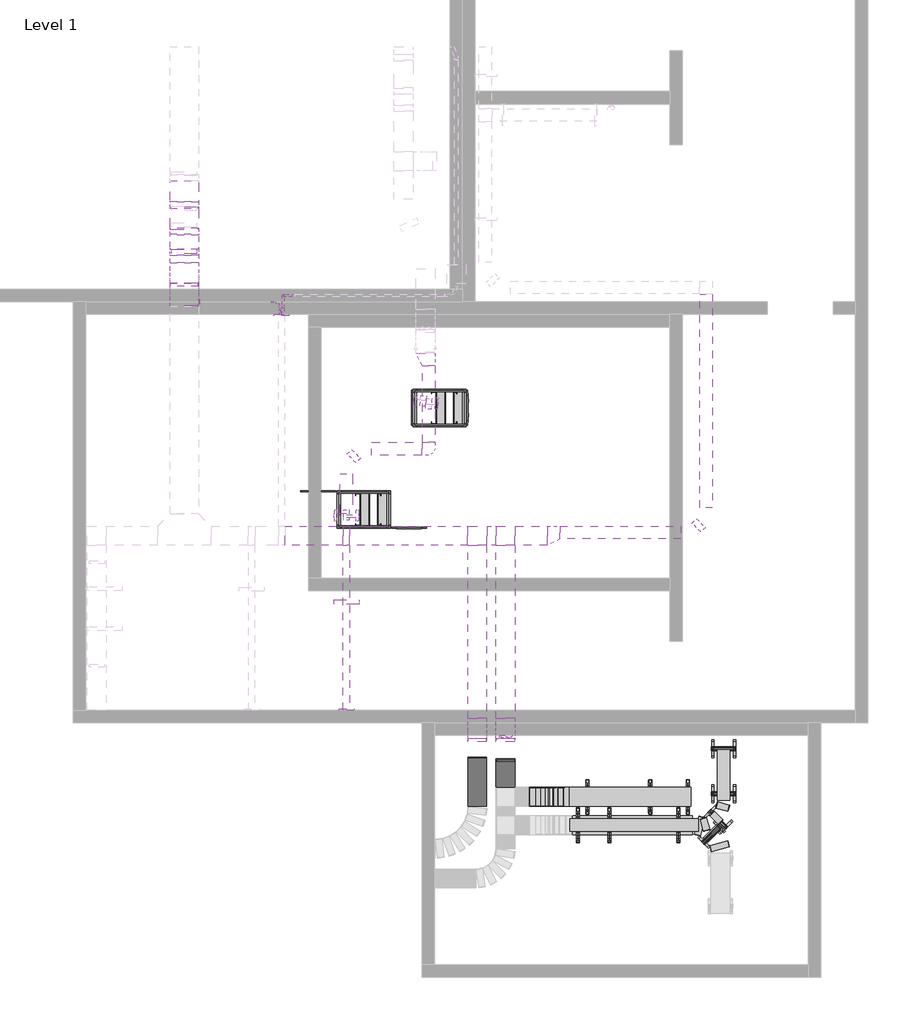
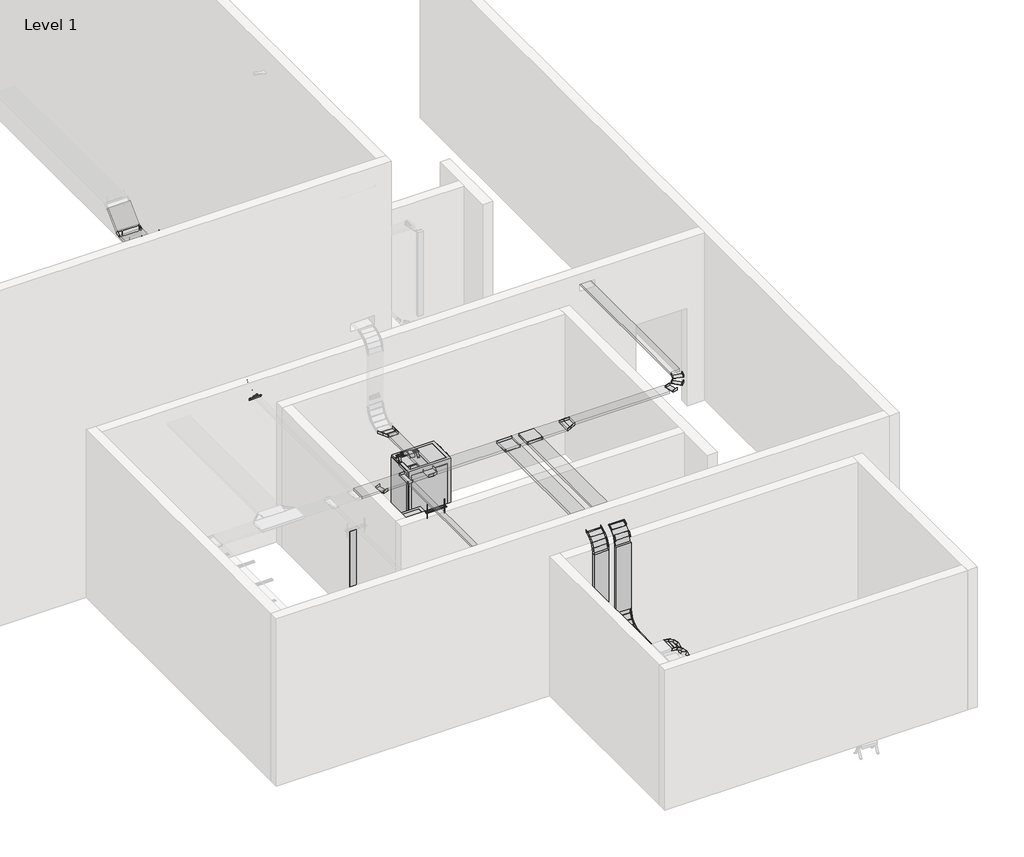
# One storey, part 2 of 3: 28 cable carrier segments, 26 cable carrier fittings, 24 electric appliances.
"""IFC4 building model written with IfcOpenShell, lengths in millimetres."""

from ifc_helpers import new_model, si_unit, point, frame, frame_2d, origin, place, context, project, spatial, polyline, circle_curve, trimmed, segment, composite_curve, outline, extrude, transform, mapped, element, save
from components import cable_carrier_fitting_1d7cee85, cable_carrier_fitting_3a409af5, cable_carrier_fitting_910f61e4, cable_carrier_fitting_ac902b17, cable_carrier_fitting_1cd74130, cable_carrier_fitting_e2580871, conduit_elbow_plain_end_pvc_standard_c46de57f, conduit_elbow_plain_end_pvc_standard_b2e2501a, inside_b042d5d7, inside_feb4f6bf, inside_2fadb0b0, inside_cf2065a4, outside_59f74532, outside_56ba3ab0, outside_c7e362af, outside_15df26a3, standard_9af1a614, standard_2a561b38, standard_be66f974, electric_appliance_e5aa1008, electric_appliance_624bd925, electric_appliance_356cf39a, standard_51789b41, standard_d35a98ab, standard_79ea3f24, standard_15ca4c5d, standard_970344b8, standard_966c1fd9, standard_a21dcf37, standard_b50ad245

model = new_model("IFC4")

# Units and contexts
model_context = context("Model", 3, world=origin())
ifc_project = project(units=[si_unit("LENGTHUNIT", "METRE", prefix="MILLI")], contexts=[model_context])

# Site, building, storey
site = spatial("IfcSite", under=ifc_project)
building = spatial("IfcBuilding", under=site)
storey = spatial("IfcBuildingStorey", under=building, Name="Level 1", Elevation=0.0)

# Cable carrier fittings
placement = place(None, origin())
cable_carrier_fitting_shape = cable_carrier_fitting_1d7cee85(model_context)
element("IfcCableCarrierFitting", 1, ObjectType="Tee-Cablofil-Wire_Mesh_Cable_Tray : EZ T 90 KIT", at=placement, inside=storey, context=model_context, shape_type="MappedRepresentation", body=[
    mapped(cable_carrier_fitting_shape, transform((2783.9308637, -2938.9704012, 3352.8), x_axis=(1.0, 0.0, 0.0), y_axis=(0.0, 1.0, 0.0), z_axis=(0.0, 0.0, 1.0))),
])
cable_carrier_fitting_2_shape = cable_carrier_fitting_3a409af5(model_context)
element("IfcCableCarrierFitting", 2, ObjectType="Tee-Cablofil-Wire_Mesh_Cable_Tray : EZ T 90 KIT", at=placement, inside=storey, context=model_context, shape_type="MappedRepresentation", body=[
    mapped(cable_carrier_fitting_2_shape, transform((667.4791948, -2938.9704012, 3352.8), x_axis=(1.0, 0.0, 0.0), y_axis=(0.0, 1.0, 0.0), z_axis=(0.0, 0.0, 1.0))),
])
cable_carrier_fitting_3_shape = cable_carrier_fitting_910f61e4(model_context)
element("IfcCableCarrierFitting", 3, ObjectType="Tee-Cablofil-Wire_Mesh_Cable_Tray : EZ T 90 KIT", at=placement, inside=storey, context=model_context, shape_type="MappedRepresentation", body=[
    mapped(cable_carrier_fitting_3_shape, transform((3241.1308637, -2938.9704012, 3352.8), x_axis=(1.0, 0.0, 0.0), y_axis=(0.0, 1.0, 0.0), z_axis=(0.0, 0.0, 1.0))),
])
cable_carrier_fitting_4_shape = cable_carrier_fitting_ac902b17(model_context)
element("IfcCableCarrierFitting", 4, ObjectType="Bend-Horizontal-Cablofil-Wire_Mesh_Cable_Tray : RAD T 90 KIT", at=placement, inside=storey, context=model_context, shape_type="MappedRepresentation", body=[
    mapped(cable_carrier_fitting_4_shape, transform((1996.5308637, -1530.6766808, 2165.35), x_axis=(1.0, 0.0, 0.0), y_axis=(0.0, 1.0, 0.0), z_axis=(0.0, 0.0, 1.0))),
])
cable_carrier_fitting_5_shape = cable_carrier_fitting_1cd74130(model_context)
element("IfcCableCarrierFitting", 5, ObjectType="Bend-Horizontal-Cablofil-Wire_Mesh_Cable_Tray-Cablobend : Cablobend", at=placement, inside=storey, context=model_context, shape_type="MappedRepresentation", body=[
    mapped(cable_carrier_fitting_5_shape, transform((6484.0791948, -2888.1704012, 3352.8), x_axis=(1.0, 0.0, 0.0), y_axis=(0.0, 1.0, 0.0), z_axis=(0.0, 0.0, 1.0))),
])
element("IfcCableCarrierFitting", 6, ObjectType="Bend-Horizontal-Cablofil-Wire_Mesh_Cable_Tray-Cablobend : Cablobend", at=placement, inside=storey, context=model_context, shape_type="MappedRepresentation", body=[
    mapped(cable_carrier_fitting_5_shape, transform((6768.8294107, -7616.7461531, -762.0), x_axis=(1.0, 0.0, 0.0), y_axis=(0.0, 1.0, 0.0), z_axis=(0.0, 0.0, 1.0))),
])
element("IfcCableCarrierFitting", 7, ObjectType="Bend-Horizontal-Cablofil-Wire_Mesh_Cable_Tray-Cablobend : Cablobend", at=placement, inside=storey, context=model_context, shape_type="MappedRepresentation", body=[
    mapped(cable_carrier_fitting_5_shape, transform((667.4791948, -1530.6766808, 2165.35), x_axis=(-1.0, 0.0, 0.0), y_axis=(0.0, -1.0, 0.0), z_axis=(0.0, 0.0, 1.0))),
])
cable_carrier_fitting_6_shape = cable_carrier_fitting_e2580871(model_context)
element("IfcCableCarrierFitting", 8, ObjectType="Bend-Horizontal-Cablofil-Wire_Mesh_Cable_Tray-Cablobend : Cablobend", at=placement, inside=storey, context=model_context, shape_type="MappedRepresentation", body=[
    mapped(cable_carrier_fitting_6_shape, transform((6718.0294107, -7616.7461531, -914.4), x_axis=(0.0, 1.0, 0.0), y_axis=(-1.0, 0.0, 0.0), z_axis=(0.0, 0.0, 1.0))),
])
conduit_elbow_plain_end_pvc_standard_shape = conduit_elbow_plain_end_pvc_standard_c46de57f(model_context)
element("IfcCableCarrierFitting", 9, ObjectType="Conduit Elbow - Plain End - PVC : Standard", at=placement, inside=storey, context=model_context, shape_type="MappedRepresentation", body=[
    mapped(conduit_elbow_plain_end_pvc_standard_shape, transform((-405.297722, 843.6390015, 3343.6440938), x_axis=(0.0, 1.0, 0.0), y_axis=(-0.9999999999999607, 0.0, 2.8068152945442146e-07), z_axis=(2.8068152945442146e-07, 0.0, 0.9999999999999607))),
])
conduit_elbow_plain_end_pvc_standard_2_shape = conduit_elbow_plain_end_pvc_standard_b2e2501a(model_context)
element("IfcCableCarrierFitting", 10, ObjectType="Conduit Elbow - Plain End - PVC : Standard", at=placement, inside=storey, context=model_context, shape_type="MappedRepresentation", body=[
    mapped(conduit_elbow_plain_end_pvc_standard_2_shape, transform((-354.497722, 945.2390015, 3350.1210938), x_axis=(0.0, 1.0, 0.0), y_axis=(0.0, 0.0, 1.0), z_axis=(1.0, 0.0, 0.0))),
])
element("IfcCableCarrierFitting", 11, ObjectType="Conduit Elbow - Plain End - PVC : Standard", at=placement, inside=storey, context=model_context, shape_type="MappedRepresentation", body=[
    mapped(conduit_elbow_plain_end_pvc_standard_2_shape, transform((-354.497722, 945.2390015, 6807.2), x_axis=(0.0, 0.0, 1.0), y_axis=(1.0, 0.0, 0.0), z_axis=(0.0, 1.0, 0.0))),
])
inside_shape = inside_b042d5d7(model_context)
element("IfcCableCarrierFitting", 12, ObjectType="Bend-Vertical-Cablofil-Wire_Mesh_Cable_Tray : Inside", at=placement, inside=storey, context=model_context, shape_type="MappedRepresentation", body=[
    mapped(inside_shape, transform((2783.9308637, -6238.6609985, 1219.2), x_axis=(0.0, 1.0, 0.0), y_axis=(0.0, 0.0, 1.0), z_axis=(1.0, 0.0, 0.0))),
])
element("IfcCableCarrierFitting", 13, ObjectType="Bend-Vertical-Cablofil-Wire_Mesh_Cable_Tray : Inside", at=placement, inside=storey, context=model_context, shape_type="MappedRepresentation", body=[
    mapped(inside_shape, transform((3974.8294107, -7159.5461531, -914.4), x_axis=(-1.0, 0.0, 0.0), y_axis=(0.0, 0.0, 1.0), z_axis=(0.0, 1.0, 0.0))),
])
inside_2_shape = inside_feb4f6bf(model_context)
element("IfcCableCarrierFitting", 14, ObjectType="Bend-Vertical-Cablofil-Wire_Mesh_Cable_Tray-Cablobend : Inside", at=placement, inside=storey, context=model_context, shape_type="MappedRepresentation", body=[
    mapped(inside_2_shape, transform((3241.1308637, -6238.6609985, 1219.2), x_axis=(0.0, 1.0, 0.0), y_axis=(0.0, 0.0, 1.0), z_axis=(1.0, 0.0, 0.0))),
])
inside_3_shape = inside_2fadb0b0(model_context)
element("IfcCableCarrierFitting", 15, ObjectType="Bend-Vertical-Cablofil-Wire_Mesh_Cable_Tray-Cablobend : Inside", at=placement, inside=storey, context=model_context, shape_type="MappedRepresentation", body=[
    mapped(inside_3_shape, transform((-1955.469197, 1123.0390015, 3352.8), x_axis=(0.0, 1.0, 0.0), y_axis=(0.0, 0.0, 1.0), z_axis=(1.0, 0.0, 0.0))),
])
inside_4_shape = inside_cf2065a4(model_context)
element("IfcCableCarrierFitting", 16, ObjectType="Bend-Vertical-Cablofil-Wire_Mesh_Cable_Tray-Cablobend : Inside", at=placement, inside=storey, context=model_context, shape_type="MappedRepresentation", body=[
    mapped(inside_4_shape, transform((-1955.469197, 1968.9174364, 6400.8), x_axis=(0.0, 0.7071067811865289, -0.7071067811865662), y_axis=(0.0, 0.7071067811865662, 0.7071067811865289), z_axis=(1.0, 0.0, 0.0))),
])
element("IfcCableCarrierFitting", 17, ObjectType="Bend-Vertical-Cablofil-Wire_Mesh_Cable_Tray-Cablobend : Inside", at=placement, inside=storey, context=model_context, shape_type="MappedRepresentation", body=[
    mapped(inside_4_shape, transform((-1955.469197, 2423.2921374, 6400.8), x_axis=(0.0, 1.0, 0.0), y_axis=(0.0, 0.0, 1.0), z_axis=(1.0, 0.0, 0.0))),
])
outside_shape = outside_59f74532(model_context)
element("IfcCableCarrierFitting", 18, ObjectType="Bend-Vertical-Cablofil-Wire_Mesh_Cable_Tray : Outside", at=placement, inside=storey, context=model_context, shape_type="MappedRepresentation", body=[
    mapped(outside_shape, transform((3241.1308637, -6238.6609985, 3352.8), x_axis=(0.0, -1.0, 0.0), y_axis=(0.0, 0.0, -1.0), z_axis=(1.0, 0.0, 0.0))),
])
outside_2_shape = outside_56ba3ab0(model_context)
element("IfcCableCarrierFitting", 19, ObjectType="Bend-Vertical-Cablofil-Wire_Mesh_Cable_Tray-Cablobend : Outside", at=placement, inside=storey, context=model_context, shape_type="MappedRepresentation", body=[
    mapped(outside_2_shape, transform((-1955.469197, 1123.0390015, 6705.6), x_axis=(0.0, 0.0, 1.0), y_axis=(0.0, 1.0, 0.0), z_axis=(-1.0, 0.0, 0.0))),
])
outside_3_shape = outside_c7e362af(model_context)
element("IfcCableCarrierFitting", 20, ObjectType="Bend-Vertical-Cablofil-Wire_Mesh_Cable_Tray-Cablobend : Outside", at=placement, inside=storey, context=model_context, shape_type="MappedRepresentation", body=[
    mapped(outside_3_shape, transform((-1955.469197, 1664.1174364, 6705.6), x_axis=(0.0, 1.0, 0.0), y_axis=(0.0, 0.0, -1.0), z_axis=(-1.0, 0.0, 0.0))),
])
outside_4_shape = outside_15df26a3(model_context)
element("IfcCableCarrierFitting", 21, ObjectType="Bend-Vertical-Cablofil-Wire_Mesh_Cable_Tray-Cablobend : Outside", at=placement, inside=storey, context=model_context, shape_type="MappedRepresentation", body=[
    mapped(outside_4_shape, transform((3974.8294107, -7159.5461531, 1219.2), x_axis=(1.0, 0.0, 0.0), y_axis=(0.0, 0.0, -1.0), z_axis=(0.0, 1.0, 0.0))),
])
element("IfcCableCarrierFitting", 22, ObjectType="Bend-Vertical-Cablofil-Wire_Mesh_Cable_Tray-Cablobend : Outside", at=placement, inside=storey, context=model_context, shape_type="MappedRepresentation", body=[
    mapped(outside_4_shape, transform((2783.9308637, -6238.6609985, 3352.8), x_axis=(0.0, 0.0, 1.0), y_axis=(0.0, 1.0, 0.0), z_axis=(-1.0, 0.0, 0.0))),
])
standard_shape = standard_9af1a614(model_context)
element("IfcCableCarrierFitting", 23, ObjectType="End-Cablofil-Wire_Mesh_Cable_Tray : Standard", at=placement, inside=storey, context=model_context, shape_type="MappedRepresentation", body=[
    mapped(standard_shape, transform((667.4791948, -5757.8717985, 3352.8), x_axis=(0.0, -1.0, 0.0), y_axis=(1.0, 0.0, 0.0), z_axis=(0.0, 0.0, 1.0))),
])
standard_2_shape = standard_2a561b38(model_context)
element("IfcCableCarrierFitting", 24, ObjectType="End-Cablofil-Wire_Mesh_Cable_Tray-To_Conduit : Standard", at=placement, inside=storey, context=model_context, shape_type="MappedRepresentation", body=[
    mapped(standard_2_shape, transform((-379.897722, 637.9498015, 3352.8), x_axis=(0.0, 1.0, 0.0), y_axis=(-1.0, 0.0, 0.0), z_axis=(0.0, 0.0, 1.0))),
])
standard_3_shape = standard_be66f974(model_context)
element("IfcCableCarrierFitting", 25, ObjectType="Reducer-Cablofil-Wire_Mesh_Cable_Tray : Standard", at=placement, inside=storey, context=model_context, shape_type="MappedRepresentation", body=[
    mapped(standard_3_shape, transform((1945.7308637, -85.512685, 2165.35), x_axis=(0.0, -1.0, 0.0), y_axis=(1.0, 0.0, 0.0), z_axis=(0.0, 0.0, 1.0))),
])
element("IfcCableCarrierFitting", 26, ObjectType="Reducer-Cablofil-Wire_Mesh_Cable_Tray : Standard", at=placement, inside=storey, context=model_context, shape_type="MappedRepresentation", body=[
    mapped(standard_3_shape, transform((4020.2791948, -2938.9704012, 3352.8), x_axis=(1.0, 0.0, 0.0), y_axis=(0.0, 1.0, 0.0), z_axis=(0.0, 0.0, 1.0))),
])

# Cable carrier segments
element("IfcCableCarrierSegment", 27, ObjectType="Cable_Tray-Wire_Mesh-Cablofil-Universal_Splice", at=placement, inside=storey, context=model_context, shape_type="SweptSolid", body=[
    extrude(outline(polyline([(3396.7058637, -3091.3704012), (3396.7058637, -2786.5704012), (3918.6791948, -2786.5704012), (3918.6791948, -3091.3704012), (3396.7058637, -3091.3704012)])), frame((0.0, 0.0, 3327.4), z_axis=(0.0, 0.0, 1.0), x_axis=(1.0, 0.0, 0.0)), (0.0, 0.0, 1.0), 50.8),
])
element("IfcCableCarrierSegment", 28, ObjectType="Cable_Tray-Wire_Mesh-Cablofil-Universal_Splice", at=placement, inside=storey, context=model_context, shape_type="SweptSolid", body=[
    extrude(outline(polyline([(6585.6791948, -2481.7704012), (6382.4791948, -2481.7704012), (6382.4791948, 969.4545988), (6585.6791948, 969.4545988), (6585.6791948, -2481.7704012)])), frame((0.0, 0.0, 3327.4), z_axis=(0.0, 0.0, 1.0), x_axis=(1.0, 0.0, 0.0)), (0.0, 0.0, 1.0), 50.8),
])
element("IfcCableCarrierSegment", 29, ObjectType="Cable_Tray-Wire_Mesh-Cablofil-Universal_Splice", at=placement, inside=storey, context=model_context, shape_type="SweptSolid", body=[
    extrude(outline(polyline([(3088.7308637, -3094.5454012), (3393.5308637, -3094.5454012), (3393.5308637, -5888.5243748), (3088.7308637, -5888.5243748), (3088.7308637, -3094.5454012)])), frame((0.0, 0.0, 3327.4), z_axis=(0.0, 0.0, 1.0), x_axis=(1.0, 0.0, 0.0)), (0.0, 0.0, 1.0), 50.8),
])
element("IfcCableCarrierSegment", 30, ObjectType="Cable_Tray-Wire_Mesh-Cablofil-Universal_Splice", at=placement, inside=storey, context=model_context, shape_type="SweptSolid", body=[
    extrude(outline(polyline([(3088.7308637, -6213.2609985), (3393.5308637, -6213.2609985), (3393.5308637, -6264.0609985), (3088.7308637, -6264.0609985), (3088.7308637, -6213.2609985)])), frame((0.0, 0.0, 1569.3366237), z_axis=(0.0, 0.0, 1.0), x_axis=(1.0, 0.0, 0.0)), (0.0, 0.0, 1.0), 1433.3267527),
])
element("IfcCableCarrierSegment", 31, ObjectType="Cable_Tray-Wire_Mesh-Cablofil-Universal_Splice", at=placement, inside=storey, context=model_context, shape_type="SweptSolid", body=[
    extrude(outline(polyline([(3088.7308637, -6588.7976221), (3393.5308637, -6588.7976221), (3393.5308637, -7003.9711531), (3088.7308637, -7003.9711531), (3088.7308637, -6588.7976221)])), frame((0.0, 0.0, 1193.8), z_axis=(0.0, 0.0, 1.0), x_axis=(1.0, 0.0, 0.0)), (0.0, 0.0, 1.0), 50.8),
])
element("IfcCableCarrierSegment", 32, ObjectType="Cable_Tray-Wire_Mesh-Cablofil-Universal_Splice", at=placement, inside=storey, context=model_context, shape_type="SweptSolid", body=[
    extrude(outline(polyline([(1073.8791948, -1632.2766808), (1073.8791948, -1429.0766808), (1891.7558637, -1429.0766808), (1891.7558637, -1632.2766808), (1073.8791948, -1632.2766808)])), frame((0.0, 0.0, 2139.95), z_axis=(0.0, 0.0, 1.0), x_axis=(1.0, 0.0, 0.0)), (0.0, 0.0, 1.0), 50.8),
])
element("IfcCableCarrierSegment", 33, ObjectType="Cable_Tray-Wire_Mesh-Cablofil-Universal_Splice", at=placement, inside=storey, context=model_context, shape_type="SweptSolid", body=[
    extrude(outline(polyline([(565.8791948, -1937.0766808), (769.0791948, -1937.0766808), (769.0791948, -2603.8266808), (565.8791948, -2603.8266808), (565.8791948, -1937.0766808)])), frame((0.0, 0.0, 2139.95), z_axis=(0.0, 0.0, 1.0), x_axis=(1.0, 0.0, 0.0)), (0.0, 0.0, 1.0), 50.8),
])
element("IfcCableCarrierSegment", 34, ObjectType="Cable_Tray-Wire_Mesh-Cablofil-Universal_Splice", at=placement, inside=storey, context=model_context, shape_type="SweptSolid", body=[
    extrude(outline(polyline([(616.6791948, -3094.5454012), (718.2791948, -3094.5454012), (718.2791948, -5757.8717985), (616.6791948, -5757.8717985), (616.6791948, -3094.5454012)])), frame((0.0, 0.0, 3327.4), z_axis=(0.0, 0.0, 1.0), x_axis=(1.0, 0.0, 0.0)), (0.0, 0.0, 1.0), 50.8),
])
element("IfcCableCarrierSegment", 35, ObjectType="Cable_Tray-Wire_Mesh-Cablofil-Universal_Splice", at=placement, inside=storey, context=model_context, shape_type="SweptSolid", body=[
    extrude(outline(polyline([(2628.3558637, -2786.5704012), (2628.3558637, -3091.3704012), (721.4541948, -3091.3704012), (721.4541948, -2786.5704012), (2628.3558637, -2786.5704012)])), frame((0.0, 0.0, 3327.4), z_axis=(0.0, 0.0, 1.0), x_axis=(1.0, 0.0, 0.0)), (0.0, 0.0, 1.0), 50.8),
])
element("IfcCableCarrierSegment", 36, ObjectType="Cable_Tray-Wire_Mesh-Cablofil-Cablobend", at=placement, inside=storey, context=model_context, shape_type="SweptSolid", body=[
    extrude(outline(polyline([(-1726.869197, 1473.1756252), (-2184.069197, 1473.1756252), (-2184.069197, 1598.6108881), (-1726.869197, 1598.6108881), (-1726.869197, 1473.1756252)])), frame((0.0, 0.0, 6680.2), z_axis=(0.0, 0.0, 1.0), x_axis=(1.0, 0.0, 0.0)), (0.0, 0.0, 1.0), 50.8),
])
element("IfcCableCarrierSegment", 37, ObjectType="Cable_Tray-Wire_Mesh-Cablofil-Cablobend", at=placement, inside=storey, context=model_context, shape_type="SweptSolid", body=[
    extrude(outline(polyline([(-1726.869197, 1148.4390015), (-1726.869197, 1097.6390015), (-2184.069197, 1097.6390015), (-2184.069197, 1148.4390015), (-1726.869197, 1148.4390015)])), frame((0.0, 0.0, 3702.9366237), z_axis=(0.0, 0.0, 1.0), x_axis=(1.0, 0.0, 0.0)), (0.0, 0.0, 1.0), 2652.5267527),
])
element("IfcCableCarrierSegment", 38, ObjectType="Cable_Tray-Wire_Mesh-Cablofil-Cablobend", at=placement, inside=storey, context=model_context, shape_type="SweptSolid", body=[
    extrude(outline(polyline([(0.0, -457.2), (0.0, 0.0), (300.0391974, 0.0), (300.0391974, -457.2), (0.0, -457.2)])), frame((-2184.069197, 1692.4770486, 6641.3193633), z_axis=(0.0, 0.7071067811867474, 0.7071067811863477), x_axis=(0.0, 0.7071067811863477, -0.7071067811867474)), (0.0, 0.0, 1.0), 50.8),
])
element("IfcCableCarrierSegment", 39, ObjectType="Cable_Tray-Wire_Mesh-Cablofil-Cablobend", at=placement, inside=storey, context=model_context, shape_type="SweptSolid", body=[
    extrude(outline(polyline([(-1726.869197, 2034.4239847), (-2184.069197, 2034.4239847), (-2184.069197, 2357.7855892), (-1726.869197, 2357.7855892), (-1726.869197, 2034.4239847)])), frame((0.0, 0.0, 6375.4), z_axis=(0.0, 0.0, 1.0), x_axis=(1.0, 0.0, 0.0)), (0.0, 0.0, 1.0), 50.8),
])
element("IfcCableCarrierSegment", 40, ObjectType="Cable_Tray-Wire_Mesh-Cablofil-Cablobend", at=placement, inside=storey, context=model_context, shape_type="SweptSolid", body=[
    extrude(outline(polyline([(228.6, 255.4067825), (228.6, 204.6067825), (-228.6, 204.6067825), (-228.6, 255.4067825), (228.6, 255.4067825)])), frame((-1955.469197, 2306.9729063, 6609.7594801), z_axis=(0.0, 0.7071067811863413, 0.7071067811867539), x_axis=(1.0, 0.0, 0.0)), (0.0, 0.0, 1.0), 443.7232952),
])
element("IfcCableCarrierSegment", 41, ObjectType="Cable_Tray-Wire_Mesh-Cablofil-Universal_Splice", at=placement, inside=storey, context=model_context, shape_type="SweptSolid", body=[
    extrude(outline(polyline([(6362.4294107, -7515.1461531), (6362.4294107, -7718.3461531), (4279.6294107, -7718.3461531), (4279.6294107, -7515.1461531), (6362.4294107, -7515.1461531)])), frame((0.0, 0.0, -787.4), z_axis=(0.0, 0.0, 1.0), x_axis=(1.0, 0.0, 0.0)), (0.0, 0.0, 1.0), 50.8),
])
element("IfcCableCarrierSegment", 42, ObjectType="Cable_Tray-Wire_Mesh-Cablofil-Universal_Splice", at=placement, inside=storey, context=model_context, shape_type="SweptSolid", body=[
    extrude(outline(polyline([(6870.4294107, -7210.3461531), (6667.2294107, -7210.3461531), (6667.2294107, -6397.5461531), (6870.4294107, -6397.5461531), (6870.4294107, -7210.3461531)])), frame((0.0, 0.0, -787.4), z_axis=(0.0, 0.0, 1.0), x_axis=(1.0, 0.0, 0.0)), (0.0, 0.0, 1.0), 50.8),
])
element("IfcCableCarrierSegment", 43, ObjectType="Cable_Tray-Wire_Mesh-Cablofil-Universal_Splice", at=placement, inside=storey, context=model_context, shape_type="SweptSolid", body=[
    extrude(outline(polyline([(4324.9660344, -7769.1461531), (4324.9660344, -7464.3461531), (6260.8294107, -7464.3461531), (6260.8294107, -7769.1461531), (4324.9660344, -7769.1461531)])), frame((0.0, 0.0, -939.8), z_axis=(0.0, 0.0, 1.0), x_axis=(1.0, 0.0, 0.0)), (0.0, 0.0, 1.0), 50.8),
])
element("IfcCableCarrierSegment", 44, ObjectType="Cable_Tray-Wire_Mesh-Cablofil-Universal_Splice", at=placement, inside=storey, context=model_context, shape_type="SweptSolid", body=[
    extrude(outline(polyline([(4121.8791948, -2989.7704012), (4121.8791948, -2786.5704012), (6077.6791948, -2786.5704012), (6077.6791948, -2989.7704012), (4121.8791948, -2989.7704012)])), frame((0.0, 0.0, 3327.4), z_axis=(0.0, 0.0, 1.0), x_axis=(1.0, 0.0, 0.0)), (0.0, 0.0, 1.0), 50.8),
])
element("IfcCableCarrierSegment", 45, ObjectType="Cable_Tray-Wire_Mesh-Cablofil-Universal_Splice", at=placement, inside=storey, context=model_context, shape_type="SweptSolid", body=[
    extrude(outline(polyline([(613.5041948, -2786.5704012), (613.5041948, -3091.3704012), (-325.922722, -3091.3704012), (-325.922722, -2786.5704012), (613.5041948, -2786.5704012)])), frame((0.0, 0.0, 3327.4), z_axis=(0.0, 0.0, 1.0), x_axis=(1.0, 0.0, 0.0)), (0.0, 0.0, 1.0), 50.8),
])
element("IfcCableCarrierSegment", 46, ObjectType="Rigid Nonmetallic Conduit (RNC Sch 40)", at=placement, inside=storey, context=model_context, shape_type="SweptSolid", body=[
    extrude(outline(composite_curve([segment(trimmed(circle_curve(frame_2d((-354.497722, 945.2390015)), 16.7005), [point((-371.198222, 945.2390015))], [point((-354.497722, 961.9395015))], False, "CARTESIAN"), True, "CONTINUOUS"), segment(trimmed(circle_curve(frame_2d((-354.497722, 945.2390015)), 16.7005), [point((-354.497722, 961.9395015))], [point((-337.797222, 945.2390015))], False, "CARTESIAN"), True, "CONTINUOUS"), segment(trimmed(circle_curve(frame_2d((-354.497722, 945.2390015)), 16.7005), [point((-337.797222, 945.2390015))], [point((-354.497722, 928.5385015))], False, "CARTESIAN"), True, "CONTINUOUS"), segment(trimmed(circle_curve(frame_2d((-354.497722, 945.2390015)), 16.7005), [point((-354.497722, 928.5385015))], [point((-371.198222, 945.2390015))], False, "CARTESIAN"), True, "CONTINUOUS")], self_intersect=False)), frame((0.0, 0.0, 3543.7960938), z_axis=(0.0, 0.0, 1.0), x_axis=(1.0, 0.0, 0.0)), (0.0, 0.0, 1.0), 3069.7289062),
])
element("IfcCableCarrierSegment", 47, ObjectType="Cable_Tray-Wire_Mesh-Cablofil-Universal_Splice", at=placement, inside=storey, context=model_context, shape_type="SweptSolid", body=[
    extrude(outline(polyline([(1894.9308637, -187.112685), (2098.1308637, -187.112685), (2098.1308637, -1425.9016808), (1894.9308637, -1425.9016808), (1894.9308637, -187.112685)])), frame((0.0, 0.0, 2139.95), z_axis=(0.0, 0.0, 1.0), x_axis=(1.0, 0.0, 0.0)), (0.0, 0.0, 1.0), 50.8),
])
element("IfcCableCarrierSegment", 48, ObjectType="Rigid Nonmetallic Conduit (RNC Sch 40)", at=placement, inside=storey, context=model_context, shape_type="SweptSolid", body=[
    extrude(outline(composite_curve([segment(trimmed(circle_curve(frame_2d((3350.0822, -354.497722)), 16.7005), [point((3350.0822, -371.198222))], [point((3333.3817, -354.497722))], False, "CARTESIAN"), True, "CONTINUOUS"), segment(trimmed(circle_curve(frame_2d((3350.0822, -354.497722)), 16.7005), [point((3333.3817, -354.497722))], [point((3350.0822, -337.797222))], False, "CARTESIAN"), True, "CONTINUOUS"), segment(trimmed(circle_curve(frame_2d((3350.0822, -354.497722)), 16.7005), [point((3350.0822, -337.797222))], [point((3366.7827, -354.497722))], False, "CARTESIAN"), True, "CONTINUOUS"), segment(trimmed(circle_curve(frame_2d((3350.0822, -354.497722)), 16.7005), [point((3366.7827, -354.497722))], [point((3350.0822, -371.198222))], False, "CARTESIAN"), True, "CONTINUOUS")], self_intersect=False)), frame((0.0, 634.0890015, 0.0), z_axis=(0.0, 1.0, 0.0), x_axis=(0.0, 0.0, 1.0)), (0.0, 0.0, 1.0), 117.475),
])
element("IfcCableCarrierSegment", 49, ObjectType="Rigid Nonmetallic Conduit (RNC Sch 40)", at=placement, inside=storey, context=model_context, shape_type="SweptSolid", body=[
    extrude(outline(composite_curve([segment(trimmed(circle_curve(frame_2d((3343.6052, -405.297722)), 10.668), [point((3343.605203, -415.965722))], [point((3332.9372, -405.297725))], False, "CARTESIAN"), True, "CONTINUOUS"), segment(trimmed(circle_curve(frame_2d((3343.6052, -405.297722)), 10.668), [point((3332.9372, -405.297725))], [point((3343.605197, -394.629722))], False, "CARTESIAN"), True, "CONTINUOUS"), segment(trimmed(circle_curve(frame_2d((3343.6052, -405.297722)), 10.668), [point((3343.605197, -394.629722))], [point((3354.2732, -405.297719))], False, "CARTESIAN"), True, "CONTINUOUS"), segment(trimmed(circle_curve(frame_2d((3343.6052, -405.297722)), 10.668), [point((3354.2732, -405.297719))], [point((3343.605203, -415.965722))], False, "CARTESIAN"), True, "CONTINUOUS")], self_intersect=False)), frame((0.0, 634.0890015, 0.0), z_axis=(0.0, 1.0, 0.0), x_axis=(0.0, 0.0, 1.0)), (0.0, 0.0, 1.0), 69.85),
])
element("IfcCableCarrierSegment", 50, ObjectType="Cable_Tray-Wire_Mesh-Cablofil-Cablobend", at=placement, inside=storey, context=model_context, shape_type="SweptSolid", body=[
    extrude(outline(polyline([(2631.5308637, -6213.2609985), (2936.3308637, -6213.2609985), (2936.3308637, -6264.0609985), (2631.5308637, -6264.0609985), (2631.5308637, -6213.2609985)])), frame((0.0, 0.0, 1518.5366237), z_axis=(0.0, 0.0, 1.0), x_axis=(1.0, 0.0, 0.0)), (0.0, 0.0, 1.0), 1484.1267527),
])
element("IfcCableCarrierSegment", 51, ObjectType="Cable_Tray-Wire_Mesh-Cablofil-Cablobend", at=placement, inside=storey, context=model_context, shape_type="SweptSolid", body=[
    extrude(outline(polyline([(2631.5308637, -6537.9976221), (2936.3308637, -6537.9976221), (2936.3308637, -7311.9461531), (2631.5308637, -7311.9461531), (2631.5308637, -6537.9976221)])), frame((0.0, 0.0, 1193.8), z_axis=(0.0, 0.0, 1.0), x_axis=(1.0, 0.0, 0.0)), (0.0, 0.0, 1.0), 50.8),
])
element("IfcCableCarrierSegment", 52, ObjectType="Cable_Tray-Wire_Mesh-Cablofil-Cablobend", at=placement, inside=storey, context=model_context, shape_type="SweptSolid", body=[
    extrude(outline(polyline([(2631.5308637, -3094.5454012), (2936.3308637, -3094.5454012), (2936.3308637, -5888.5243748), (2631.5308637, -5888.5243748), (2631.5308637, -3094.5454012)])), frame((0.0, 0.0, 3327.4), z_axis=(0.0, 0.0, 1.0), x_axis=(1.0, 0.0, 0.0)), (0.0, 0.0, 1.0), 50.8),
])
element("IfcCableCarrierSegment", 53, ObjectType="Cable_Tray-Wire_Mesh-Cablofil-Cablobend", at=placement, inside=storey, context=model_context, shape_type="SweptSolid", body=[
    extrude(outline(polyline([(4274.1660344, -7311.9461531), (4274.1660344, -7007.1461531), (6240.8927871, -7007.1461531), (6240.8927871, -7311.9461531), (4274.1660344, -7311.9461531)])), frame((0.0, 0.0, -939.8), z_axis=(0.0, 0.0, 1.0), x_axis=(1.0, 0.0, 0.0)), (0.0, 0.0, 1.0), 50.8),
])
element("IfcCableCarrierSegment", 54, ObjectType="Cable_Tray-Wire_Mesh-Cablofil-Universal_Splice", at=placement, inside=storey, context=model_context, shape_type="SweptSolid", body=[
    extrude(outline(polyline([(2939.5058637, -3091.3704012), (2939.5058637, -2786.5704012), (3085.5558637, -2786.5704012), (3085.5558637, -3091.3704012), (2939.5058637, -3091.3704012)])), frame((0.0, 0.0, 3327.4), z_axis=(0.0, 0.0, 1.0), x_axis=(1.0, 0.0, 0.0)), (0.0, 0.0, 1.0), 50.8),
])

# Electric appliances
electric_appliance_shape = electric_appliance_e5aa1008(model_context)
element("IfcElectricAppliance", 55, ObjectType="Cabinet-Network-Ortronics-Preconfigured-Mighty_Mo : 42 RU x 24\" W x 36\" D", at=placement, inside=storey, context=model_context, shape_type="MappedRepresentation", body=[
    mapped(electric_appliance_shape, transform((2173.2259637, -870.7058369, 0.0), x_axis=(0.0, 1.0000000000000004, 0.0), y_axis=(-1.0000000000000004, 0.0, 0.0), z_axis=(0.0, 0.0, 1.0))),
])
electric_appliance_2_shape = electric_appliance_624bd925(model_context)
element("IfcElectricAppliance", 56, ObjectType="Cabinet-Network-Ortronics-Preconfigured-Mighty_Mo : 42 RU x 24\" W x 36\" D", at=placement, inside=storey, context=model_context, shape_type="MappedRepresentation", body=[
    mapped(electric_appliance_2_shape, transform((945.7742948, -2514.1870302, 0.0), x_axis=(0.0, 1.0000000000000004, 0.0), y_axis=(-1.0000000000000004, 0.0, 0.0), z_axis=(0.0, 0.0, 1.0))),
])
electric_appliance_3_shape = electric_appliance_356cf39a(model_context)
element("IfcElectricAppliance", 57, ObjectType="Clamp-Conduit-Cablofil : For 1/2\" - 1 1/2\" Conduit", at=placement, inside=storey, context=model_context, shape_type="MappedRepresentation", body=[
    mapped(electric_appliance_3_shape, transform((-1726.869197, 843.6390015, 3343.5726955), x_axis=(0.0, 1.0, 0.0), y_axis=(0.0, 0.0, 1.0), z_axis=(1.0, 0.0, 0.0))),
])
standard_4_shape = standard_51789b41(model_context)
element("IfcElectricAppliance", 58, ObjectType="Bracket-Cross_Bar-Cablofil : Standard", at=placement, inside=storey, context=model_context, shape_type="MappedRepresentation", body=[
    mapped(standard_4_shape, transform((4919.9420629, -7616.7461531, -787.4), x_axis=(0.0, -1.0, 0.0), y_axis=(-1.0, 0.0, 0.0), z_axis=(0.0, 0.0, -1.0))),
])
element("IfcElectricAppliance", 59, ObjectType="Bracket-Cross_Bar-Cablofil : Standard", at=placement, inside=storey, context=model_context, shape_type="MappedRepresentation", body=[
    mapped(standard_4_shape, transform((4411.9420629, -7616.7461531, -787.4), x_axis=(0.0, -1.0, 0.0), y_axis=(-1.0, 0.0, 0.0), z_axis=(0.0, 0.0, -1.0))),
])
element("IfcElectricAppliance", 60, ObjectType="Bracket-Cross_Bar-Cablofil : Standard", at=placement, inside=storey, context=model_context, shape_type="MappedRepresentation", body=[
    mapped(standard_4_shape, transform((6037.5420629, -7616.7461531, -787.4), x_axis=(0.0, -1.0, 0.0), y_axis=(-1.0, 0.0, 0.0), z_axis=(0.0, 0.0, -1.0))),
])
standard_5_shape = standard_d35a98ab(model_context)
element("IfcElectricAppliance", 61, ObjectType="Bracket-I-Cablofil-FAS_Profile-Trapeeze : Standard", at=placement, inside=storey, context=model_context, shape_type="MappedRepresentation", body=[
    mapped(standard_5_shape, transform((667.4791948, -4007.7609985, 3327.4), x_axis=(1.0, 0.0, 0.0), y_axis=(0.0, -1.0, 0.0), z_axis=(0.0, 0.0, -1.0))),
])
standard_6_shape = standard_79ea3f24(model_context)
element("IfcElectricAppliance", 62, ObjectType="Bracket-Floor-Cablofil : Standard", at=placement, inside=storey, context=model_context, shape_type="MappedRepresentation", body=[
    mapped(standard_6_shape, transform((6676.8544202, -7524.7711626, -914.4), x_axis=(0.7071067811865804, 0.7071067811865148, 0.0), y_axis=(0.7071067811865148, -0.7071067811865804, 0.0), z_axis=(0.0, 0.0, -1.0))),
])
element("IfcElectricAppliance", 63, ObjectType="Bracket-Floor-Cablofil : Standard", at=placement, inside=storey, context=model_context, shape_type="MappedRepresentation", body=[
    mapped(standard_6_shape, transform((6768.8294107, -7109.0491839, -787.4), x_axis=(0.0, 1.0, 0.0), y_axis=(1.0, 0.0, 0.0), z_axis=(0.0, 0.0, -1.0))),
])
element("IfcElectricAppliance", 64, ObjectType="Bracket-Floor-Cablofil : Standard", at=placement, inside=storey, context=model_context, shape_type="MappedRepresentation", body=[
    mapped(standard_6_shape, transform((6768.8294107, -6379.9599971, -787.4), x_axis=(0.0, 1.0, 0.0), y_axis=(1.0, 0.0, 0.0), z_axis=(0.0, 0.0, -1.0))),
])
standard_7_shape = standard_15ca4c5d(model_context)
element("IfcElectricAppliance", 65, ObjectType="Bracket-Floor-Cablofil : Standard", at=placement, inside=storey, context=model_context, shape_type="MappedRepresentation", body=[
    mapped(standard_7_shape, transform((6574.9645367, -7766.5384335, -914.4), x_axis=(0.707106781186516, -0.7071067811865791, 0.0), y_axis=(-0.7071067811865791, -0.707106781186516, 0.0), z_axis=(0.0, 0.0, -1.0))),
])
standard_8_shape = standard_970344b8(model_context)
element("IfcElectricAppliance", 66, ObjectType="Bracket-Floor-Cablofil : Standard", at=placement, inside=storey, context=model_context, shape_type="MappedRepresentation", body=[
    mapped(standard_8_shape, transform((1952.7188567, -779.0919396, 2139.95), x_axis=(-0.08898865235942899, -0.996032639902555, 0.0), y_axis=(-0.996032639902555, 0.08898865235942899, 0.0), z_axis=(0.0, 0.0, -1.0))),
])
element("IfcElectricAppliance", 67, ObjectType="Bracket-Floor-Cablofil : Standard", at=placement, inside=storey, context=model_context, shape_type="MappedRepresentation", body=[
    mapped(standard_8_shape, transform((667.4791948, -2610.7505529, 2139.95), x_axis=(0.0, -1.0, 0.0), y_axis=(-1.0, 0.0, 0.0), z_axis=(0.0, 0.0, -1.0))),
])
element("IfcElectricAppliance", 68, ObjectType="Bracket-I-Cablofil-FAS_Profile-Trapeeze : Standard", at=placement, inside=storey, context=model_context, shape_type="MappedRepresentation", body=[
    mapped(standard_5_shape, transform((-1955.469197, 1657.8994973, 6680.2), x_axis=(1.0, 0.0, 0.0), y_axis=(0.0, -1.0, 0.0), z_axis=(0.0, 0.0, -1.0))),
])
standard_9_shape = standard_966c1fd9(model_context)
element("IfcElectricAppliance", 69, ObjectType="Bracket-Wall-Cablofil : Standard", at=placement, inside=storey, context=model_context, shape_type="MappedRepresentation", body=[
    mapped(standard_9_shape, transform((3241.1308637, -6213.2609985, 2720.6807831), x_axis=(-1.0, 0.0, 0.0), y_axis=(0.0, 0.0, 1.0), z_axis=(0.0, 1.0, 0.0))),
])
standard_10_shape = standard_a21dcf37(model_context)
element("IfcElectricAppliance", 70, ObjectType="Bracket-Cross_Bar-Cablofil : Standard", at=placement, inside=storey, context=model_context, shape_type="MappedRepresentation", body=[
    mapped(standard_10_shape, transform((4919.9420629, -7616.7461531, -939.8), x_axis=(0.0, -1.0, 0.0), y_axis=(-1.0, 0.0, 0.0), z_axis=(0.0, 0.0, -1.0))),
])
element("IfcElectricAppliance", 71, ObjectType="Bracket-Cross_Bar-Cablofil : Standard", at=placement, inside=storey, context=model_context, shape_type="MappedRepresentation", body=[
    mapped(standard_10_shape, transform((4411.9420629, -7616.7461531, -939.8), x_axis=(0.0, -1.0, 0.0), y_axis=(-1.0, 0.0, 0.0), z_axis=(0.0, 0.0, -1.0))),
])
element("IfcElectricAppliance", 72, ObjectType="Bracket-Cross_Bar-Cablofil : Standard", at=placement, inside=storey, context=model_context, shape_type="MappedRepresentation", body=[
    mapped(standard_10_shape, transform((6037.5420629, -7616.7461531, -939.8), x_axis=(0.0, -1.0, 0.0), y_axis=(-1.0, 0.0, 0.0), z_axis=(0.0, 0.0, -1.0))),
])
element("IfcElectricAppliance", 73, ObjectType="Bracket-Cross_Bar-Cablofil : Standard", at=placement, inside=storey, context=model_context, shape_type="MappedRepresentation", body=[
    mapped(standard_10_shape, transform((5580.3420629, -7159.5461531, -939.8), x_axis=(0.0, -1.0, 0.0), y_axis=(-1.0, 0.0, 0.0), z_axis=(0.0, 0.0, -1.0))),
])
element("IfcElectricAppliance", 74, ObjectType="Bracket-Cross_Bar-Cablofil : Standard", at=placement, inside=storey, context=model_context, shape_type="MappedRepresentation", body=[
    mapped(standard_10_shape, transform((4564.3420629, -7159.5461531, -939.8), x_axis=(0.0, -1.0, 0.0), y_axis=(-1.0, 0.0, 0.0), z_axis=(0.0, 0.0, -1.0))),
])
element("IfcElectricAppliance", 75, ObjectType="Bracket-Cross_Bar-Cablofil : Standard", at=placement, inside=storey, context=model_context, shape_type="MappedRepresentation", body=[
    mapped(standard_10_shape, transform((6189.9420629, -7159.5461531, -939.8), x_axis=(0.0, -1.0, 0.0), y_axis=(-1.0, 0.0, 0.0), z_axis=(0.0, 0.0, -1.0))),
])
standard_11_shape = standard_b50ad245(model_context)
element("IfcElectricAppliance", 76, ObjectType="Waterfall-Cablofil : Standard", at=placement, inside=storey, context=model_context, shape_type="MappedRepresentation", body=[
    mapped(standard_11_shape, transform((1997.6215559, -782.1872328, 2139.95), x_axis=(-0.08898865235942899, -0.996032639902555, 0.0), y_axis=(-0.996032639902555, 0.08898865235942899, 0.0), z_axis=(0.0, 0.0, -1.0))),
])
element("IfcElectricAppliance", 77, ObjectType="Waterfall-Cablofil : Standard", at=placement, inside=storey, context=model_context, shape_type="MappedRepresentation", body=[
    mapped(standard_11_shape, transform((1907.6776226, -777.5472403, 2139.95), x_axis=(0.08898865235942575, 0.9960326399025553, 0.0), y_axis=(0.9960326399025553, -0.08898865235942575, 0.0), z_axis=(0.0, 0.0, -1.0))),
])
element("IfcElectricAppliance", 78, ObjectType="Waterfall-Cablofil : Standard", at=placement, inside=storey, context=model_context, shape_type="MappedRepresentation", body=[
    mapped(standard_11_shape, transform((667.4791948, -2582.711145, 2139.95), x_axis=(0.0, -1.0, 0.0), y_axis=(-1.0, 0.0, 0.0), z_axis=(0.0, 0.0, -1.0))),
])

save(model, "model.ifc")
